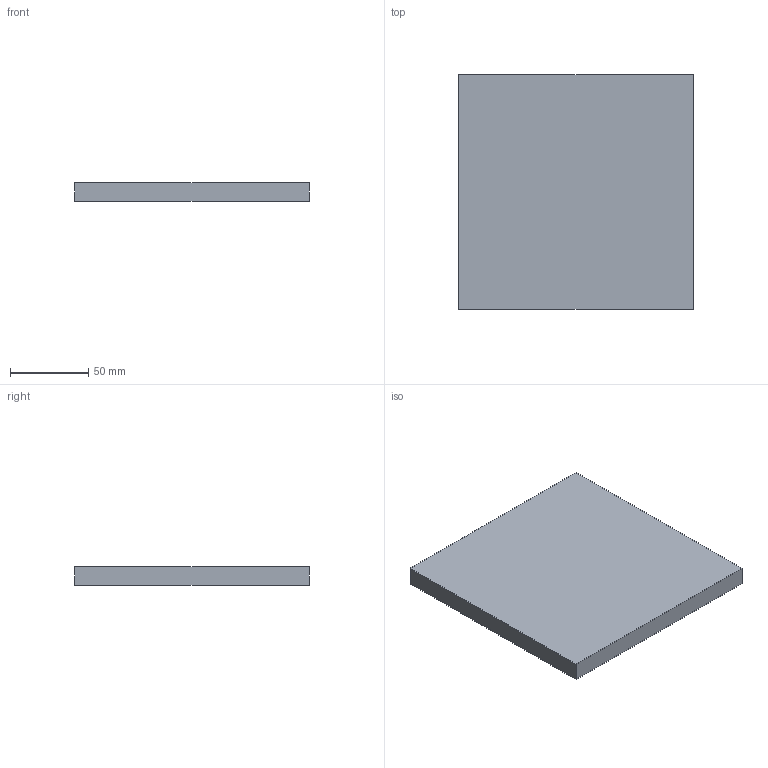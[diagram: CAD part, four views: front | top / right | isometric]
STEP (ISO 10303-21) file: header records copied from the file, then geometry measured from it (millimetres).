
FILE_DESCRIPTION(('Open CASCADE Model'),'2;1');
FILE_NAME('Open CASCADE Shape Model','2026-10-19T10:09:20',('Author'),( 'Open CASCADE'),'Open CASCADE STEP processor 8.0','Open CASCADE 8.0' ,'Unknown');
FILE_SCHEMA(('AUTOMOTIVE_DESIGN { 1 0 10303 214 1 1 1 1 }'));
Length unit declared in the file: millimetre
Products named in the file (1): U04_CAP_PATA_150x150x12_P05 46
Bounding box: 150 x 150 x 12 mm (x, y, z)
Volume: 270000 mm3; surface area: 52200 mm2
Topology: 1 solids, 1 shells, 6 faces, 12 edges, 8 vertices
Faces by surface type: plane 6
Entity records: 322 total; most frequent: CARTESIAN_POINT 51, DIRECTION 50, LINE 36, VECTOR 36, ORIENTED_EDGE 24, PCURVE 24, DEFINITIONAL_REPRESENTATION 24, EDGE_CURVE 12
